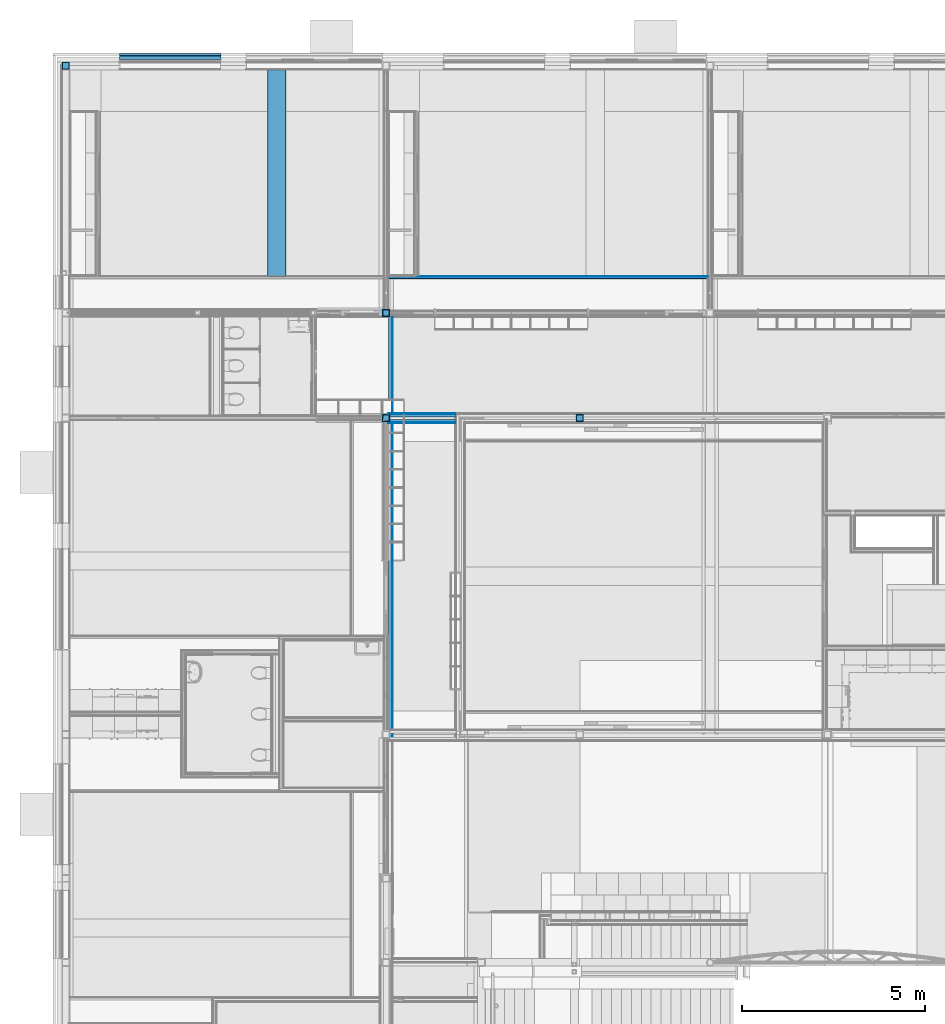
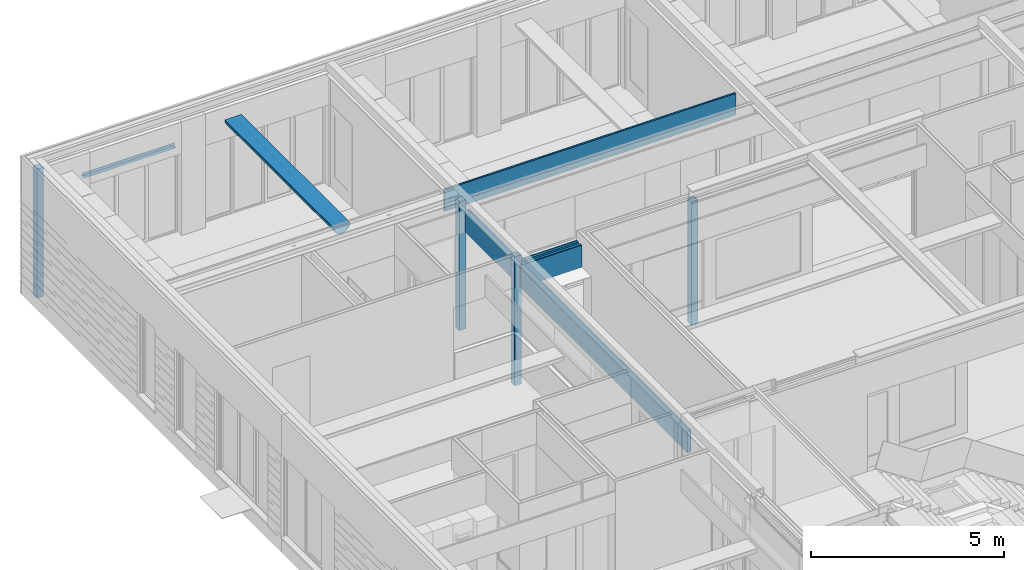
# One storey, part 82 of 165: 22 building element parts, 9 elements without a shape of their own.
"""IFC2X3 building model written with IfcOpenShell, lengths in millimetres."""

from ifc_helpers import new_model, entity, si_unit, converted_unit, derived_unit, money_unit, direction, frame, origin_with_axes, place, context, subcontext, project, spatial, faceted_brep, material, type_object, element, aggregate, save


model = new_model("IFC2X3")

# Units and contexts
model_context = context("Model", 3, precision=0.01, world=origin_with_axes(), true_north=direction((0.0, 1.0)))
body_context = subcontext(model_context, "Body", "Model", "MODEL_VIEW")
ifc_project = project(units=[si_unit("LENGTHUNIT", "METRE", prefix="MILLI"), si_unit("AREAUNIT", "SQUARE_METRE"), si_unit("VOLUMEUNIT", "CUBIC_METRE"), converted_unit("PLANEANGLEUNIT", "DEGREE", entity("IfcPlaneAngleMeasure", 0.0174532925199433), si_unit("PLANEANGLEUNIT", "RADIAN"), dimensions=[0, 0, 0, 0, 0, 0, 0]), money_unit("EUR"), converted_unit("TIMEUNIT", "Year", entity("IfcTimeMeasure", 31556926.0), si_unit("TIMEUNIT", "SECOND"), dimensions=[0, 0, 1, 0, 0, 0, 0]), si_unit("MASSUNIT", "GRAM", prefix="KILO"), si_unit("THERMODYNAMICTEMPERATUREUNIT", "DEGREE_CELSIUS"), si_unit("LUMINOUSINTENSITYUNIT", "LUMEN"), si_unit("ENERGYUNIT", "JOULE", prefix="MEGA"), derived_unit("THERMALCONDUCTANCEUNIT", [(si_unit("POWERUNIT", "WATT"), 1), (si_unit("LENGTHUNIT", "METRE"), -1), (si_unit("THERMODYNAMICTEMPERATUREUNIT", "KELVIN"), -1)]), derived_unit("SPECIFICHEATCAPACITYUNIT", [(si_unit("ENERGYUNIT", "JOULE"), 1), (si_unit("MASSUNIT", "GRAM", prefix="KILO"), -1), (si_unit("THERMODYNAMICTEMPERATUREUNIT", "KELVIN"), -1)]), derived_unit("MASSDENSITYUNIT", [(si_unit("MASSUNIT", "GRAM", prefix="KILO"), 1), (si_unit("VOLUMEUNIT", "CUBIC_METRE"), -1)])], contexts=[model_context])

# Site, building, storey
site_placement = place(None, origin_with_axes())
site = spatial("IfcSite", under=ifc_project, at=site_placement, Name="Site", CompositionType="ELEMENT")
building_placement = place(site_placement, origin_with_axes())
building = spatial("IfcBuilding", under=site, at=building_placement, Name="Naam gebouw", CompositionType="ELEMENT")
storey_placement = place(building_placement, origin_with_axes())
storey = spatial("IfcBuildingStorey", under=building, at=storey_placement, Name="Begane grond", CompositionType="ELEMENT", Elevation=0.0)

# Column, building element parts
column_type = type_object("IfcColumnType", Name="200X200X10 200 x 200", PredefinedType="COLUMN")
column_1_placement = place(storey_placement, frame((8850.000000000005, 22324.99984707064, -480.0), z_axis=(0.0, 0.0, 1.0), x_axis=(1.0, 0.0, 0.0)))
column_1 = element("IfcColumn", 1, at=column_1_placement, inside=storey, type_object=column_type, Name="28_Kolom-x", ObjectType="COLUMN")
ifc_material_1 = material(Name="Beton gewapend C")
building_element_part_1_placement = place(column_1_placement, origin_with_axes())
building_element_part_1 = element("IfcBuildingElementPart", 2, at=building_element_part_1_placement, material=ifc_material_1, Name="Beton gewapend C", context=body_context, shape_type="Brep", body=[
    faceted_brep([(-89.99999999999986, 89.99999999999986, 4050.000002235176), (89.99999999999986, 89.99999999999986, 4050.000002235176), (89.99999999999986, 89.99999999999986, 0.0), (-89.99999999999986, 89.99999999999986, 0.0), (89.99999999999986, -89.99999999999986, 4050.000002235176), (-89.99999999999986, -89.99999999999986, 4050.000002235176), (89.99999999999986, -89.99999999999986, 0.0), (-89.99999999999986, -89.99999999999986, 0.0)], [[[0, 1, 2, 3]], [[4, 1, 0, 5]], [[1, 4, 6, 2]], [[2, 6, 7, 3]], [[5, 0, 3, 7]], [[4, 5, 7, 6]]]),
    faceted_brep([(89.99999999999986, -89.99999999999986, 4075.000002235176), (89.99999999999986, 89.99999999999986, 4075.000002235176), (89.99999999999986, 89.99999999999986, 4079.999999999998), (89.99999999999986, -89.99999999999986, 4079.999999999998), (-89.99999999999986, 89.99999999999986, 4075.000002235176), (-89.99999999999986, -89.99999999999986, 4075.000002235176), (-89.99999999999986, 89.99999999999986, 4079.999999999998), (-89.99999999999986, -89.99999999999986, 4079.999999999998)], [[[0, 1, 2, 3]], [[4, 1, 0, 5]], [[1, 4, 6, 2]], [[2, 6, 7, 3]], [[5, 0, 3, 7]], [[4, 5, 7, 6]]]),
])
ifc_material_2 = material(Name="Metaal - Staal C")
building_element_part_2_placement = place(column_1_placement, origin_with_axes())
building_element_part_2 = element("IfcBuildingElementPart", 3, at=building_element_part_2_placement, material=ifc_material_2, Name="Metaal - Staal C", context=body_context, shape_type="Brep", body=[
    faceted_brep([(-99.99999999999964, -100.0000000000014, 0.0), (99.99999999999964, -100.0000000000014, 0.0), (99.99999999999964, -100.0000000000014, 4079.999999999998), (-99.99999999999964, -100.0000000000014, 4079.999999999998), (-99.99999999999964, 100.0000000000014, 0.0), (99.99999999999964, 100.0000000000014, 0.0), (-89.99999999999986, -89.99999999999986, 0.0), (89.99999999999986, -89.99999999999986, 0.0), (89.99999999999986, 89.99999999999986, 0.0), (-89.99999999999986, 89.99999999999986, 0.0), (99.99999999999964, 100.0000000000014, 4079.999999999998), (-99.99999999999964, 100.0000000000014, 4079.999999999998), (-89.99999999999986, -89.99999999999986, 4079.999999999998), (-89.99999999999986, 89.99999999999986, 4079.999999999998), (89.99999999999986, 89.99999999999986, 4079.999999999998), (89.99999999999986, -89.99999999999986, 4079.999999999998)], [[[0, 1, 2, 3]], [[0, 4, 5, 1], [6, 7, 8, 9]], [[1, 5, 10, 2]], [[3, 2, 10, 11], [12, 13, 14, 15]], [[4, 0, 3, 11]], [[5, 4, 11, 10]], [[7, 6, 12, 15]], [[8, 7, 15, 14]], [[9, 8, 14, 13]], [[6, 9, 13, 12]]]),
])
aggregate(column_1, [building_element_part_1, building_element_part_2])

column_2_placement = place(storey_placement, frame((8850.000000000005, 19449.9998112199, -480.0), z_axis=(0.0, 0.0, 1.0), x_axis=(1.0, 0.0, 0.0)))
column_2 = element("IfcColumn", 4, at=column_2_placement, inside=storey, type_object=column_type, Name="28_Kolom-x", ObjectType="COLUMN")
building_element_part_3_placement = place(column_2_placement, origin_with_axes())
building_element_part_3 = element("IfcBuildingElementPart", 5, at=building_element_part_3_placement, material=ifc_material_1, Name="Beton gewapend C", context=body_context, shape_type="Brep", body=[
    faceted_brep([(-89.99999999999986, 89.99999999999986, 4050.000002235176), (89.99999999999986, 89.99999999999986, 4050.000002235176), (89.99999999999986, 89.99999999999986, 0.0), (-89.99999999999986, 89.99999999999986, 0.0), (89.99999999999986, -89.99999999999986, 4050.000002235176), (-89.99999999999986, -89.99999999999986, 4050.000002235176), (89.99999999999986, -89.99999999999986, 0.0), (-89.99999999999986, -89.99999999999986, 0.0)], [[[0, 1, 2, 3]], [[4, 1, 0, 5]], [[1, 4, 6, 2]], [[2, 6, 7, 3]], [[5, 0, 3, 7]], [[4, 5, 7, 6]]]),
    faceted_brep([(89.99999999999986, -89.99999999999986, 4075.000002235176), (89.99999999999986, 89.99999999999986, 4075.000002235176), (89.99999999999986, 89.99999999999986, 4079.999999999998), (89.99999999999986, -89.99999999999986, 4079.999999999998), (-89.99999999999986, 89.99999999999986, 4075.000002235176), (-89.99999999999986, -89.99999999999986, 4075.000002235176), (-89.99999999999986, 89.99999999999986, 4079.999999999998), (-89.99999999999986, -89.99999999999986, 4079.999999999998)], [[[0, 1, 2, 3]], [[4, 1, 0, 5]], [[1, 4, 6, 2]], [[2, 6, 7, 3]], [[5, 0, 3, 7]], [[4, 5, 7, 6]]]),
])
building_element_part_4_placement = place(column_2_placement, origin_with_axes())
building_element_part_4 = element("IfcBuildingElementPart", 6, at=building_element_part_4_placement, material=ifc_material_2, Name="Metaal - Staal C", context=body_context, shape_type="Brep", body=[
    faceted_brep([(-99.99999999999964, -100.0000000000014, 0.0), (99.99999999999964, -100.0000000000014, 0.0), (99.99999999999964, -100.0000000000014, 4079.999999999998), (-99.99999999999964, -100.0000000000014, 4079.999999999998), (-99.99999999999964, 100.0000000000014, 0.0), (99.99999999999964, 100.0000000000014, 0.0), (-89.99999999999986, -89.99999999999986, 0.0), (89.99999999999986, -89.99999999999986, 0.0), (89.99999999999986, 89.99999999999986, 0.0), (-89.99999999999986, 89.99999999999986, 0.0), (99.99999999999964, 100.0000000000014, 4079.999999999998), (-99.99999999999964, 100.0000000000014, 4079.999999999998), (-89.99999999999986, -89.99999999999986, 4079.999999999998), (-89.99999999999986, 89.99999999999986, 4079.999999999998), (89.99999999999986, 89.99999999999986, 4079.999999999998), (89.99999999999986, -89.99999999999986, 4079.999999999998)], [[[0, 1, 2, 3]], [[0, 4, 5, 1], [6, 7, 8, 9]], [[1, 5, 10, 2]], [[3, 2, 10, 11], [12, 13, 14, 15]], [[4, 0, 3, 11]], [[5, 4, 11, 10]], [[7, 6, 12, 15]], [[8, 7, 15, 14]], [[9, 8, 14, 13]], [[6, 9, 13, 12]]]),
])
aggregate(column_2, [building_element_part_3, building_element_part_4])

column_3_placement = place(storey_placement, frame((14139.99795005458, 19449.9998112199, -425.0000000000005), z_axis=(0.0, 0.0, 1.0), x_axis=(1.0, 0.0, 0.0)))
column_3 = element("IfcColumn", 7, at=column_3_placement, inside=storey, type_object=column_type, Name="28_Kolom-x", ObjectType="COLUMN")
building_element_part_5_placement = place(column_3_placement, origin_with_axes())
building_element_part_5 = element("IfcBuildingElementPart", 8, at=building_element_part_5_placement, material=ifc_material_1, Name="Beton gewapend C", context=body_context, shape_type="Brep", body=[
    faceted_brep([(-89.99999999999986, 89.99999999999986, 3889.999999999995), (89.99999999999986, 89.99999999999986, 3889.999999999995), (89.99999999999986, 89.99999999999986, 0.0), (-89.99999999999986, 89.99999999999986, 0.0), (89.99999999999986, -89.99999999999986, 3889.999999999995), (-89.99999999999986, -89.99999999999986, 3889.999999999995), (89.99999999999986, -89.99999999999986, 0.0), (-89.99999999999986, -89.99999999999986, 0.0)], [[[0, 1, 2, 3]], [[4, 1, 0, 5]], [[1, 4, 6, 2]], [[6, 7, 3, 2]], [[5, 0, 3, 7]], [[4, 5, 7, 6]]]),
])
building_element_part_6_placement = place(column_3_placement, origin_with_axes())
building_element_part_6 = element("IfcBuildingElementPart", 9, at=building_element_part_6_placement, material=ifc_material_2, Name="Metaal - Staal C", context=body_context, shape_type="Brep", body=[
    faceted_brep([(-99.99999999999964, -100.0000000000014, 0.0), (99.99999999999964, -100.0000000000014, 0.0), (99.99999999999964, -100.0000000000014, 3919.999999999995), (-99.99999999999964, -100.0000000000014, 3919.999999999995), (-99.99999999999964, 100.0000000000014, 0.0), (99.99999999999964, 100.0000000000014, 0.0), (-89.99999999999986, -89.99999999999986, 0.0), (89.99999999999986, -89.99999999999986, 0.0), (89.99999999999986, 89.99999999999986, 0.0), (-89.99999999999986, 89.99999999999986, 0.0), (99.99999999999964, 100.0000000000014, 3919.999999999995), (-99.99999999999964, 100.0000000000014, 3919.999999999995), (-89.99999999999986, -89.99999999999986, 3919.999999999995), (-89.99999999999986, 89.99999999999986, 3919.999999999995), (89.99999999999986, 89.99999999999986, 3919.999999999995), (89.99999999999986, -89.99999999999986, 3919.999999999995)], [[[0, 1, 2, 3]], [[0, 4, 5, 1], [6, 7, 8, 9]], [[1, 5, 10, 2]], [[3, 2, 10, 11], [12, 13, 14, 15]], [[4, 0, 3, 11]], [[5, 4, 11, 10]], [[7, 6, 12, 15]], [[8, 7, 15, 14]], [[9, 8, 14, 13]], [[6, 9, 13, 12]]]),
])
aggregate(column_3, [building_element_part_5, building_element_part_6])

column_4_placement = place(storey_placement, frame((100.0000000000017, 29075.0, -480.0), z_axis=(0.0, 0.0, 1.0), x_axis=(1.0, 0.0, 0.0)))
column_4 = element("IfcColumn", 10, at=column_4_placement, inside=storey, type_object=column_type, Name="28_Kolom-x", ObjectType="COLUMN")
building_element_part_7_placement = place(column_4_placement, origin_with_axes())
building_element_part_7 = element("IfcBuildingElementPart", 11, at=building_element_part_7_placement, material=ifc_material_1, Name="Beton gewapend C", context=body_context, shape_type="Brep", body=[
    faceted_brep([(-90.00000000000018, 89.99999999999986, 4059.999999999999), (89.99999999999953, 89.99999999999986, 4059.999999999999), (89.99999999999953, 89.99999999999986, 0.0), (-90.00000000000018, 89.99999999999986, 0.0), (89.99999999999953, -89.99999999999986, 4059.999999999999), (-90.00000000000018, -89.99999999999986, 4059.999999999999), (89.99999999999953, -89.99999999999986, 0.0), (-90.00000000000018, -89.99999999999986, 0.0)], [[[0, 1, 2, 3]], [[4, 1, 0, 5]], [[1, 4, 6, 2]], [[2, 6, 7, 3]], [[5, 0, 3, 7]], [[4, 5, 7, 6]]]),
    faceted_brep([(89.99999999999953, -89.99999999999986, 4074.999999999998), (89.99999999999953, 89.99999999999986, 4074.999999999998), (89.99999999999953, 89.99999999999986, 4079.999999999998), (89.99999999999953, -89.99999999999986, 4079.999999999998), (-90.00000000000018, 89.99999999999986, 4074.999999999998), (-90.00000000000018, -89.99999999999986, 4074.999999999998), (-90.00000000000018, 89.99999999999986, 4079.999999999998), (-90.00000000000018, -89.99999999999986, 4079.999999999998)], [[[0, 1, 2, 3]], [[4, 1, 0, 5]], [[1, 4, 6, 2]], [[2, 6, 7, 3]], [[5, 0, 3, 7]], [[4, 5, 7, 6]]]),
])
building_element_part_8_placement = place(column_4_placement, origin_with_axes())
building_element_part_8 = element("IfcBuildingElementPart", 12, at=building_element_part_8_placement, material=ifc_material_2, Name="Metaal - Staal C", context=body_context, shape_type="Brep", body=[
    faceted_brep([(-100.0, -100.0000000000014, 0.0), (100.0, -100.0000000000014, 0.0), (100.0, -100.0000000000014, 4079.999999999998), (-100.0, -100.0000000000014, 4079.999999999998), (-100.0, 100.0000000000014, 0.0), (100.0, 100.0000000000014, 0.0), (-90.00000000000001, -89.99999999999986, 0.0), (90.00000000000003, -89.99999999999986, 0.0), (90.00000000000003, 89.99999999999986, 0.0), (-90.00000000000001, 89.99999999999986, 0.0), (100.0, 100.0000000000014, 4079.999999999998), (-100.0, 100.0000000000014, 4079.999999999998), (-90.00000000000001, -89.99999999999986, 4079.999999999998), (-90.00000000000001, 89.99999999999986, 4079.999999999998), (90.00000000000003, 89.99999999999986, 4079.999999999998), (90.00000000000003, -89.99999999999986, 4079.999999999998)], [[[0, 1, 2, 3]], [[0, 4, 5, 1], [6, 7, 8, 9]], [[1, 5, 10, 2]], [[3, 2, 10, 11], [12, 13, 14, 15]], [[4, 0, 3, 11]], [[5, 4, 11, 10]], [[7, 6, 12, 15]], [[8, 7, 15, 14]], [[9, 8, 14, 13]], [[6, 9, 13, 12]]]),
])
aggregate(column_4, [building_element_part_7, building_element_part_8])

# Beam, building element parts
beam_type_1 = type_object("IfcBeamType", Name="41 Latei/geveldrager 158 x 112", PredefinedType="BEAM")
beam_1_placement = place(storey_placement, frame((1565.000000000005, 29355.0, 2610.0), z_axis=(0.0, 0.0, 1.0), x_axis=(0.0, -1.0, 0.0)))
beam_1 = element("IfcBeam", 13, at=beam_1_placement, inside=storey, type_object=beam_type_1, Name="_Regenwaterafvoer-x", ObjectType="BEAM")
building_element_part_9_placement = place(beam_1_placement, origin_with_axes())
building_element_part_9 = element("IfcBuildingElementPart", 14, at=building_element_part_9_placement, material=ifc_material_2, Name="Metaal - Staal C", context=body_context, shape_type="Brep", body=[
    faceted_brep([(3.000000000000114, 2770.000000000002, -3.000000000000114), (108.0000000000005, 2770.000000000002, -3.000000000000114), (108.0000000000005, 0.0, -3.000000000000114), (3.000000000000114, 0.0, -3.000000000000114), (3.000000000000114, 2770.000000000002, 0.0), (108.0000000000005, 2770.000000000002, 0.0), (108.0000000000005, 0.0, 0.0), (3.000000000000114, 0.0, 0.0)], [[[0, 1, 2, 3]], [[0, 4, 5, 1]], [[1, 5, 6, 2]], [[3, 2, 6, 7]], [[4, 0, 3, 7]], [[5, 4, 7, 6]]]),
])
building_element_part_10_placement = place(beam_1_placement, origin_with_axes())
building_element_part_10 = element("IfcBuildingElementPart", 15, at=building_element_part_10_placement, material=ifc_material_2, Name="Metaal - Staal C", context=body_context, shape_type="Brep", body=[
    faceted_brep([(-50.00000000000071, 2770.000000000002, 6.55651533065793e-07), (-50.00000000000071, 2770.000000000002, -3.000000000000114), (-50.00000000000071, 0.0, -3.000000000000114), (-50.00000000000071, 0.0, 6.55651533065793e-07), (-5.9603877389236e-08, 2770.000000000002, 6.55651533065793e-07), (-5.9603877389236e-08, 2770.000000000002, 99.3417707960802), (16.54654975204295, 2770.000000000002, 108.894926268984), (18.04655007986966, 2770.000000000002, 106.296849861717), (3.000000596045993, 2770.000000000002, 96.99999988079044), (3.000000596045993, 2770.000000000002, 6.55651533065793e-07), (3.000000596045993, 2770.000000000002, -3.000000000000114), (3.000000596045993, 0.0, -3.000000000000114), (3.000000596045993, 0.0, 6.55651533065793e-07), (3.000000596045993, 0.0, 96.99999988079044), (18.04655007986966, 0.0, 106.296849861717), (16.54654975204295, 0.0, 108.894926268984), (-5.9603877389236e-08, 0.0, 99.3417707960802), (-5.9603877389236e-08, 0.0, 6.55651533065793e-07)], [[[0, 1, 2, 3]], [[0, 4, 5, 6, 7, 8, 9, 10, 1]], [[1, 10, 11, 2]], [[3, 2, 11, 12, 13, 14, 15, 16, 17]], [[4, 0, 3, 17]], [[5, 4, 17, 16]], [[6, 5, 16, 15]], [[7, 6, 15, 14]], [[8, 7, 14, 13]], [[9, 8, 13, 12]], [[10, 9, 12, 11]]]),
])
aggregate(beam_1, [building_element_part_9, building_element_part_10])

# Proxy, building element parts
building_element_proxy_type_1 = type_object("IfcBuildingElementProxyType", Name="22 Metal stud 112.5 plafond 113", PredefinedType="NOTDEFINED")
proxy_1_placement = place(storey_placement, frame((9025.0, 22199.97621406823, 2600.0), z_axis=(0.0, 0.0, 1.0), x_axis=(0.0, -1.0, 0.0)))
proxy_1 = element("IfcBuildingElementProxy", 16, at=proxy_1_placement, inside=storey, type_object=building_element_proxy_type_1, Name="_Wand-x")
ifc_material_3 = material(Name="Gipsplaat")
building_element_part_11_placement = place(proxy_1_placement, origin_with_axes())
building_element_part_11 = element("IfcBuildingElementPart", 17, at=building_element_part_11_placement, material=ifc_material_3, Name="Gipsplaat", context=body_context, shape_type="Brep", body=[
    faceted_brep([(2627.476402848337, 0.0, 12.00000000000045), (0.0, 0.0, 12.00000000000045), (0.0, 0.0, 700.0000000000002), (2627.476402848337, 0.0, 700.0000000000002), (0.0, -12.49999999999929, 12.00000000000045), (2627.476402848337, -12.49999999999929, 12.00000000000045), (0.0, -12.49999999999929, 700.0000000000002), (2627.476402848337, -12.49999999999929, 700.0000000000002)], [[[0, 1, 2, 3]], [[4, 1, 0, 5]], [[1, 4, 6, 2]], [[7, 3, 2, 6]], [[5, 0, 3, 7]], [[4, 5, 7, 6]]]),
    faceted_brep([(11524.97739734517, -12.50000000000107, 700.0000000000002), (11524.97739734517, 0.0, 700.0000000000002), (2872.476402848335, 0.0, 700.0000000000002), (2872.476402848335, -12.49999999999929, 700.0000000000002), (11524.97739734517, -12.50000000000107, 0.0), (11524.97739734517, 0.0, 0.0), (2872.476402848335, 0.0, 0.0), (2872.476402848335, -12.49999999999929, 0.0)], [[[0, 1, 2, 3]], [[0, 4, 5, 1]], [[1, 5, 6, 2]], [[3, 2, 6, 7]], [[4, 0, 3, 7]], [[5, 4, 7, 6]]]),
])
ifc_material_4 = material(Name="ALG - LICHTE SCHEIDINGSWAND")
building_element_part_12_placement = place(proxy_1_placement, origin_with_axes())
building_element_part_12 = element("IfcBuildingElementPart", 18, at=building_element_part_12_placement, material=ifc_material_4, Name="ALG - LICHTE SCHEIDINGSWAND", context=body_context, shape_type="Brep", body=[
    faceted_brep([(2614.976402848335, -12.49999999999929, 12.00000000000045), (0.0, -12.49999999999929, 12.00000000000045), (0.0, -12.49999999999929, 700.0000000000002), (2614.976402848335, -12.49999999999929, 700.0000000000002), (0.0, -112.5000000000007, 12.00000000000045), (2614.976402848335, -112.5000000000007, 12.00000000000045), (0.0, -112.5000000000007, 700.0000000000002), (2614.976402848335, -112.5000000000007, 700.0000000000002)], [[[0, 1, 2, 3]], [[4, 1, 0, 5]], [[1, 4, 6, 2]], [[7, 3, 2, 6]], [[5, 0, 3, 7]], [[4, 5, 7, 6]]]),
    faceted_brep([(11524.97739734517, -112.5000000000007, 700.0000000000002), (11524.97739734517, -12.50000000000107, 700.0000000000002), (2884.976402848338, -12.49999999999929, 700.0000000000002), (2884.976402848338, -112.5000000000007, 700.0000000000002), (11524.97739734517, -112.5000000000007, 0.0), (11524.97739734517, -12.50000000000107, 0.0), (2884.976402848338, -12.49999999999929, 0.0), (2884.976402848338, -112.5000000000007, 0.0)], [[[0, 1, 2, 3]], [[0, 4, 5, 1]], [[1, 5, 6, 2]], [[3, 2, 6, 7]], [[4, 0, 3, 7]], [[5, 4, 7, 6]]]),
])
aggregate(proxy_1, [building_element_part_11, building_element_part_12])

building_element_proxy_type_2 = type_object("IfcBuildingElementProxyType", Name="22 Metal stud 270 270", PredefinedType="NOTDEFINED")
proxy_2_placement = place(storey_placement, frame((10740.00000000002, 19449.9998112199, 2600.0), z_axis=(0.0, 0.0, 1.0), x_axis=(-1.0, 0.0, 0.0)))
proxy_2 = element("IfcBuildingElementProxy", 19, at=proxy_2_placement, inside=storey, type_object=building_element_proxy_type_2, Name="_Wand-x")
building_element_part_13_placement = place(proxy_2_placement, origin_with_axes())
building_element_part_13 = element("IfcBuildingElementPart", 20, at=building_element_part_13_placement, material=ifc_material_3, Name="Gipsplaat", context=body_context, shape_type="Brep", body=[
    faceted_brep([(1827.500000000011, 122.4999999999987, 0.0), (1827.500000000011, 109.9999999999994, 0.0), (0.0, 109.9999999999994, 0.0), (0.0, 122.4999999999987, 0.0), (1827.500000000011, 122.4999999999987, 699.9999999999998), (1827.500000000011, 109.9999999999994, 699.9999999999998), (0.0, 109.9999999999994, 699.9999999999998), (0.0, 122.4999999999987, 699.9999999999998)], [[[0, 1, 2, 3]], [[0, 4, 5, 1]], [[1, 5, 6, 2]], [[3, 2, 6, 7]], [[4, 0, 3, 7]], [[5, 4, 7, 6]]]),
])
building_element_part_14_placement = place(proxy_2_placement, origin_with_axes())
building_element_part_14 = element("IfcBuildingElementPart", 21, at=building_element_part_14_placement, material=ifc_material_3, Name="Gipsplaat", context=body_context, shape_type="Brep", body=[
    faceted_brep([(1715.000000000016, 122.4999999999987, 0.0), (0.0, 122.4999999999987, 0.0), (0.0, 135.0000000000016, 0.0), (1715.000000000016, 135.0000000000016, 0.0), (1715.000000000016, 122.4999999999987, 699.9999999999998), (0.0, 122.4999999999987, 699.9999999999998), (0.0, 135.0000000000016, 699.9999999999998), (1715.000000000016, 135.0000000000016, 699.9999999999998)], [[[0, 1, 2, 3]], [[4, 5, 1, 0]], [[2, 1, 5, 6]], [[3, 2, 6, 7]], [[3, 7, 4, 0]], [[7, 6, 5, 4]]]),
    faceted_brep([(1827.500000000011, 135.0000000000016, 0.0), (1827.500000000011, 122.4999999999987, 0.0), (1727.500000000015, 122.4999999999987, 0.0), (1727.500000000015, 135.0000000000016, 0.0), (1827.500000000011, 135.0000000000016, 699.9999999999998), (1827.500000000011, 122.4999999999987, 699.9999999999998), (1727.500000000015, 122.4999999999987, 699.9999999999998), (1727.500000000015, 135.0000000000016, 699.9999999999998)], [[[0, 1, 2, 3]], [[0, 4, 5, 1]], [[1, 5, 6, 2]], [[3, 2, 6, 7]], [[4, 0, 3, 7]], [[5, 4, 7, 6]]]),
])
building_element_part_15_placement = place(proxy_2_placement, origin_with_axes())
building_element_part_15 = element("IfcBuildingElementPart", 22, at=building_element_part_15_placement, material=ifc_material_4, Name="ALG - LICHTE SCHEIDINGSWAND", context=body_context, shape_type="Brep", body=[
    faceted_brep([(1827.500000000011, 109.9999999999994, 0.0), (1827.500000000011, 35.00000000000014, 0.0), (0.0, 35.00000000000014, 0.0), (0.0, 109.9999999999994, 0.0), (1827.500000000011, 109.9999999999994, 699.9999999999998), (1827.500000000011, 35.00000000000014, 699.9999999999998), (0.0, 35.00000000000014, 699.9999999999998), (0.0, 109.9999999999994, 699.9999999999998)], [[[0, 1, 2, 3]], [[0, 4, 5, 1]], [[1, 5, 6, 2]], [[3, 2, 6, 7]], [[4, 0, 3, 7]], [[5, 4, 7, 6]]]),
])
building_element_part_16_placement = place(proxy_2_placement, origin_with_axes())
building_element_part_16 = element("IfcBuildingElementPart", 23, at=building_element_part_16_placement, material=ifc_material_4, Name="ALG - LICHTE SCHEIDINGSWAND", context=body_context, shape_type="Brep", body=[
    faceted_brep([(1827.500000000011, -35.00000000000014, 0.0), (1827.500000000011, -109.9999999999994, 0.0), (0.0, -109.9999999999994, 0.0), (0.0, -35.00000000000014, 0.0), (1827.500000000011, -35.00000000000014, 699.9999999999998), (1827.500000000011, -109.9999999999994, 699.9999999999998), (0.0, -109.9999999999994, 699.9999999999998), (0.0, -35.00000000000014, 699.9999999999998)], [[[0, 1, 2, 3]], [[0, 4, 5, 1]], [[1, 5, 6, 2]], [[3, 2, 6, 7]], [[4, 0, 3, 7]], [[5, 4, 7, 6]]]),
])
building_element_part_17_placement = place(proxy_2_placement, origin_with_axes())
building_element_part_17 = element("IfcBuildingElementPart", 24, at=building_element_part_17_placement, material=ifc_material_3, Name="Gipsplaat", context=body_context, shape_type="Brep", body=[
    faceted_brep([(1715.000000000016, -122.4999999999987, 0.0), (1715.000000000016, -135.0000000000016, 0.0), (0.0, -135.0000000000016, 0.0), (0.0, -122.4999999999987, 0.0), (1715.000000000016, -122.4999999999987, 699.9999999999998), (1715.000000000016, -135.0000000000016, 699.9999999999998), (0.0, -135.0000000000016, 699.9999999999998), (0.0, -122.4999999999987, 699.9999999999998)], [[[0, 1, 2, 3]], [[1, 0, 4, 5]], [[1, 5, 6, 2]], [[7, 3, 2, 6]], [[4, 0, 3, 7]], [[5, 4, 7, 6]]]),
    faceted_brep([(1727.500000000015, -122.4999999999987, 12.00000000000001), (1727.500000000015, -135.0000000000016, 12.00000000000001), (1727.500000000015, -135.0000000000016, 699.9999999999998), (1727.500000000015, -122.4999999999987, 699.9999999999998), (1827.500000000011, -135.0000000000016, 12.00000000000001), (1827.500000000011, -122.4999999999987, 12.00000000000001), (1827.500000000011, -135.0000000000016, 699.9999999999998), (1827.500000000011, -122.4999999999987, 699.9999999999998)], [[[0, 1, 2, 3]], [[4, 1, 0, 5]], [[1, 4, 6, 2]], [[2, 6, 7, 3]], [[5, 0, 3, 7]], [[4, 5, 7, 6]]]),
])
building_element_part_18_placement = place(proxy_2_placement, origin_with_axes())
building_element_part_18 = element("IfcBuildingElementPart", 25, at=building_element_part_18_placement, material=ifc_material_3, Name="Gipsplaat", context=body_context, shape_type="Brep", body=[
    faceted_brep([(1827.500000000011, -109.9999999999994, 0.0), (1827.500000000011, -122.4999999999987, 0.0), (0.0, -122.4999999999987, 0.0), (0.0, -109.9999999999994, 0.0), (1827.500000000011, -109.9999999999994, 699.9999999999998), (1827.500000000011, -122.4999999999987, 699.9999999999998), (0.0, -122.4999999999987, 699.9999999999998), (0.0, -109.9999999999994, 699.9999999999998)], [[[0, 1, 2, 3]], [[0, 4, 5, 1]], [[1, 5, 6, 2]], [[3, 2, 6, 7]], [[4, 0, 3, 7]], [[5, 4, 7, 6]]]),
])
aggregate(proxy_2, [building_element_part_13, building_element_part_14, building_element_part_15, building_element_part_16, building_element_part_17, building_element_part_18])

building_element_proxy_type_3 = type_object("IfcBuildingElementProxyType", Name="22 Metal stud 62.5 plafond 63", PredefinedType="NOTDEFINED")
proxy_3_placement = place(storey_placement, frame((8912.500000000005, 23324.99984707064, 2600.0), z_axis=(0.0, 0.0, 1.0), x_axis=(1.0, 0.0, 0.0)))
proxy_3 = element("IfcBuildingElementProxy", 26, at=proxy_3_placement, inside=storey, type_object=building_element_proxy_type_3, Name="_Wand-x")
building_element_part_19_placement = place(proxy_3_placement, origin_with_axes())
building_element_part_19 = element("IfcBuildingElementPart", 27, at=building_element_part_19_placement, material=ifc_material_3, Name="Gipsplaat", context=body_context, shape_type="Brep", body=[
    faceted_brep([(8724.999424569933, -12.49999999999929, 12.00000000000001), (8724.999424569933, 0.0, 12.00000000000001), (8724.999424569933, 0.0, 699.9999999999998), (8724.999424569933, -12.49999999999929, 699.9999999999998), (0.0, 0.0, 12.00000000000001), (0.0, -12.49999999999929, 12.00000000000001), (0.0, 0.0, 699.9999999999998), (0.0, -12.49999999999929, 699.9999999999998)], [[[0, 1, 2, 3]], [[4, 1, 0, 5]], [[1, 4, 6, 2]], [[7, 3, 2, 6]], [[5, 0, 3, 7]], [[4, 5, 7, 6]]]),
])
building_element_part_20_placement = place(proxy_3_placement, origin_with_axes())
building_element_part_20 = element("IfcBuildingElementPart", 28, at=building_element_part_20_placement, material=ifc_material_4, Name="ALG - LICHTE SCHEIDINGSWAND", context=body_context, shape_type="Brep", body=[
    faceted_brep([(8724.999424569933, -62.5, 12.00000000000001), (8724.999424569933, -12.49999999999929, 12.00000000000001), (8724.999424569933, -12.49999999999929, 699.9999999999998), (8724.999424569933, -62.5, 699.9999999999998), (0.0, -12.49999999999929, 12.00000000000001), (0.0, -62.5, 12.00000000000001), (0.0, -12.49999999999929, 699.9999999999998), (0.0, -62.5, 699.9999999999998)], [[[0, 1, 2, 3]], [[4, 1, 0, 5]], [[1, 4, 6, 2]], [[7, 3, 2, 6]], [[5, 0, 3, 7]], [[4, 5, 7, 6]]]),
])
aggregate(proxy_3, [building_element_part_19, building_element_part_20])

# Beam, building element parts
beam_type_2 = type_object("IfcBeamType", Name="Luchtzakken 500mm 500 x 265", PredefinedType="BEAM")
beam_2_placement = place(storey_placement, frame((5864.000000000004, 28961.00000000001, 3200.0), z_axis=(0.0, 0.0, 1.0), x_axis=(-1.0, 0.0, 0.0)))
beam_2 = element("IfcBeam", 29, at=beam_2_placement, inside=storey, type_object=beam_type_2, Name="_Regenwaterafvoer-x", ObjectType="BEAM")
ifc_material_5 = material(Name="ALG - ALGEMEEN")
building_element_part_21_placement = place(beam_2_placement, origin_with_axes())
building_element_part_21 = element("IfcBuildingElementPart", 30, at=building_element_part_21_placement, material=ifc_material_5, Name="ALG - ALGEMEEN", context=body_context, shape_type="Brep", body=[
    faceted_brep([(250.0, 5636.000152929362, 0.0), (250.0, 5636.000152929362, 15.00000000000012), (250.0, 0.0, 15.00000000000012), (250.0, 0.0, 0.0), (240.0000000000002, 5636.000152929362, 0.0), (-240.0000000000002, 5636.000152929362, 0.0), (-250.0, 5636.000152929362, 0.0), (-250.0, 5636.000152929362, 15.00000000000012), (-250.0, 0.0, 15.00000000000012), (-250.0, 0.0, 0.0), (-240.0000000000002, 0.0, 0.0), (240.0000000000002, 0.0, 0.0)], [[[0, 1, 2, 3]], [[0, 4, 5, 6, 7, 1]], [[1, 7, 8, 2]], [[3, 2, 8, 9, 10, 11]], [[4, 0, 3, 11]], [[5, 4, 11, 10]], [[6, 5, 10, 9]], [[7, 6, 9, 8]]]),
])
building_element_part_22_placement = place(beam_2_placement, origin_with_axes())
building_element_part_22 = element("IfcBuildingElementPart", 31, at=building_element_part_22_placement, material=ifc_material_5, Name="ALG - ALGEMEEN", context=body_context, shape_type="Brep", body=[
    faceted_brep([(-250.0, 5636.000152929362, 0.0), (-246.2019382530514, 5636.000152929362, -43.41204441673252), (-246.2019382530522, 0.0, -43.41204441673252), (-250.0, 0.0, 0.0), (-240.0000000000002, 5636.000152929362, 0.0), (-236.3538607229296, 5636.000152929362, -41.67556264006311), (-225.5262289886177, 5636.000152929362, -82.08483439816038), (-207.8460969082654, 5636.000152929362, -120.0000000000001), (-183.8506663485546, 5636.000152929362, -154.2690263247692), (-154.2690263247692, 5636.000152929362, -183.8506663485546), (-120.0000000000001, 5636.000152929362, -207.8460969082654), (-82.08483439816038, 5636.000152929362, -225.5262289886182), (-41.67556264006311, 5636.000152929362, -236.3538607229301), (0.0, 5636.000152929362, -240.0000000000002), (41.67556264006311, 5636.000152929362, -236.3538607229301), (82.08483439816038, 5636.000152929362, -225.5262289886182), (120.0000000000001, 5636.000152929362, -207.8460969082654), (154.2690263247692, 5636.000152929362, -183.8506663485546), (183.8506663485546, 5636.000152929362, -154.2690263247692), (207.8460969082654, 5636.000152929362, -120.0000000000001), (225.5262289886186, 5636.000152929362, -82.08483439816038), (236.3538607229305, 5636.000152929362, -41.67556264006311), (240.0000000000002, 5636.000152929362, 0.0), (250.0, 5636.000152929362, 0.0), (246.2019382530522, 5636.000152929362, -43.41204441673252), (234.9231551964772, 5636.000152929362, -85.50503583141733), (216.5063509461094, 5636.000152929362, -125.0), (191.5111107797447, 5636.000152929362, -160.6969024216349), (160.6969024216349, 5636.000152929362, -191.5111107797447), (125.0, 5636.000152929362, -216.5063509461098), (85.50503583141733, 5636.000152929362, -234.9231551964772), (43.41204441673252, 5636.000152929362, -246.2019382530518), (0.0, 5636.000152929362, -250.0), (-43.41204441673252, 5636.000152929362, -246.2019382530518), (-85.50503583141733, 5636.000152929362, -234.9231551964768), (-125.0, 5636.000152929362, -216.5063509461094), (-160.6969024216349, 5636.000152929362, -191.5111107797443), (-191.5111107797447, 5636.000152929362, -160.6969024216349), (-216.5063509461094, 5636.000152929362, -125.0), (-234.9231551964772, 5636.000152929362, -85.50503583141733), (-234.9231551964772, 0.0, -85.50503583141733), (-216.5063509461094, 0.0, -125.0), (-191.5111107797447, 0.0, -160.6969024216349), (-160.6969024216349, 0.0, -191.5111107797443), (-125.0, 0.0, -216.5063509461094), (-85.50503583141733, 0.0, -234.9231551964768), (-43.41204441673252, 0.0, -246.2019382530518), (0.0, 0.0, -250.0), (43.41204441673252, 0.0, -246.2019382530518), (85.50503583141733, 0.0, -234.9231551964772), (125.0, 0.0, -216.5063509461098), (160.6969024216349, 0.0, -191.5111107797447), (191.5111107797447, 0.0, -160.6969024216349), (216.5063509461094, 0.0, -125.0), (234.9231551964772, 0.0, -85.50503583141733), (246.2019382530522, 0.0, -43.41204441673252), (250.0, 0.0, 0.0), (240.0000000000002, 0.0, 0.0), (236.3538607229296, 0.0, -41.67556264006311), (225.5262289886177, 0.0, -82.08483439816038), (207.8460969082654, 0.0, -120.0000000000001), (183.8506663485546, 0.0, -154.2690263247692), (154.2690263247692, 0.0, -183.8506663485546), (120.0000000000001, 0.0, -207.8460969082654), (82.08483439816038, 0.0, -225.5262289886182), (41.67556264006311, 0.0, -236.3538607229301), (0.0, 0.0, -240.0000000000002), (-41.67556264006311, 0.0, -236.3538607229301), (-82.08483439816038, 0.0, -225.5262289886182), (-120.0000000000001, 0.0, -207.8460969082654), (-154.2690263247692, 0.0, -183.8506663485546), (-183.8506663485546, 0.0, -154.2690263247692), (-207.8460969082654, 0.0, -120.0000000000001), (-225.5262289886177, 0.0, -82.08483439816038), (-236.3538607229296, 0.0, -41.67556264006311), (-240.0000000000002, 0.0, 0.0)], [[[0, 1, 2, 3]], [[0, 4, 5, 6, 7, 8, 9, 10, 11, 12, 13, 14, 15, 16, 17, 18, 19, 20, 21, 22, 23, 24, 25, 26, 27, 28, 29, 30, 31, 32, 33, 34, 35, 36, 37, 38, 39, 1]], [[1, 39, 40, 2]], [[3, 2, 40, 41, 42, 43, 44, 45, 46, 47, 48, 49, 50, 51, 52, 53, 54, 55, 56, 57, 58, 59, 60, 61, 62, 63, 64, 65, 66, 67, 68, 69, 70, 71, 72, 73, 74, 75]], [[4, 0, 3, 75]], [[5, 4, 75, 74]], [[6, 5, 74, 73]], [[7, 6, 73, 72]], [[8, 7, 72, 71]], [[9, 8, 71, 70]], [[10, 9, 70, 69]], [[11, 10, 69, 68]], [[12, 11, 68, 67]], [[13, 12, 67, 66]], [[14, 13, 66, 65]], [[15, 14, 65, 64]], [[16, 15, 64, 63]], [[17, 16, 63, 62]], [[18, 17, 62, 61]], [[19, 18, 61, 60]], [[20, 19, 60, 59]], [[21, 20, 59, 58]], [[22, 21, 58, 57]], [[23, 22, 57, 56]], [[24, 23, 56, 55]], [[25, 24, 55, 54]], [[26, 25, 54, 53]], [[27, 26, 53, 52]], [[28, 27, 52, 51]], [[29, 28, 51, 50]], [[30, 29, 50, 49]], [[31, 30, 49, 48]], [[32, 31, 48, 47]], [[33, 32, 47, 46]], [[34, 33, 46, 45]], [[35, 34, 45, 44]], [[36, 35, 44, 43]], [[37, 36, 43, 42]], [[38, 37, 42, 41]], [[39, 38, 41, 40]]]),
])
aggregate(beam_2, [building_element_part_21, building_element_part_22])

save(model, "model.ifc")
